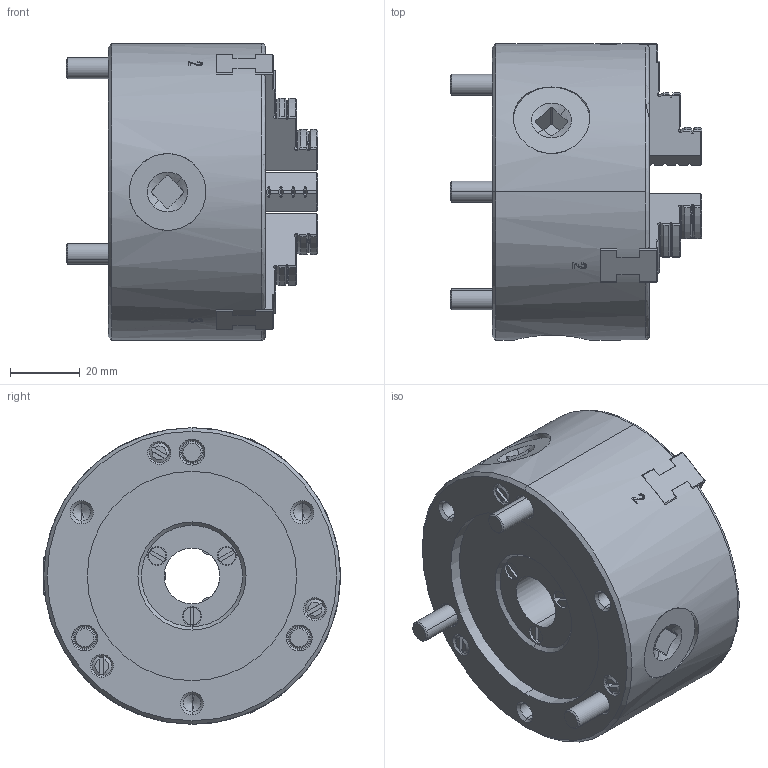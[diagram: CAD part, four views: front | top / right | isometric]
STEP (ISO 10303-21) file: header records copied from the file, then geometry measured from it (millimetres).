
FILE_DESCRIPTION (( 'STEP AP214' ), '1' );
FILE_NAME ('SC-3-106_61S848756-1.STEP', '2025-04-18T01:46:13', ( '' ), ( '' ), 'SwSTEP 2.0', 'SolidWorks 2022', '' );
FILE_SCHEMA (( 'AUTOMOTIVE_DESIGN' ));
Length unit declared in the file: millimetre
Products named in the file (1): SC-3-106_61S848756-1
Bounding box: 72 x 85 x 85 mm (x, y, z)
Volume: 239984.9 mm3; surface area: 37461 mm2
Topology: 1 solids, 1 shells, 1222 faces, 3298 edges, 2155 vertices
Faces by surface type: plane 608, bspline 311, cone 141, cylinder 111, torus 49, sphere 2
Entity records: 49819 total; most frequent: CARTESIAN_POINT 21561, ORIENTED_EDGE 6572, DIRECTION 4546, EDGE_CURVE 3286, VERTEX_POINT 2155, VECTOR 1824, LINE 1824, AXIS2_PLACEMENT_3D 1361
